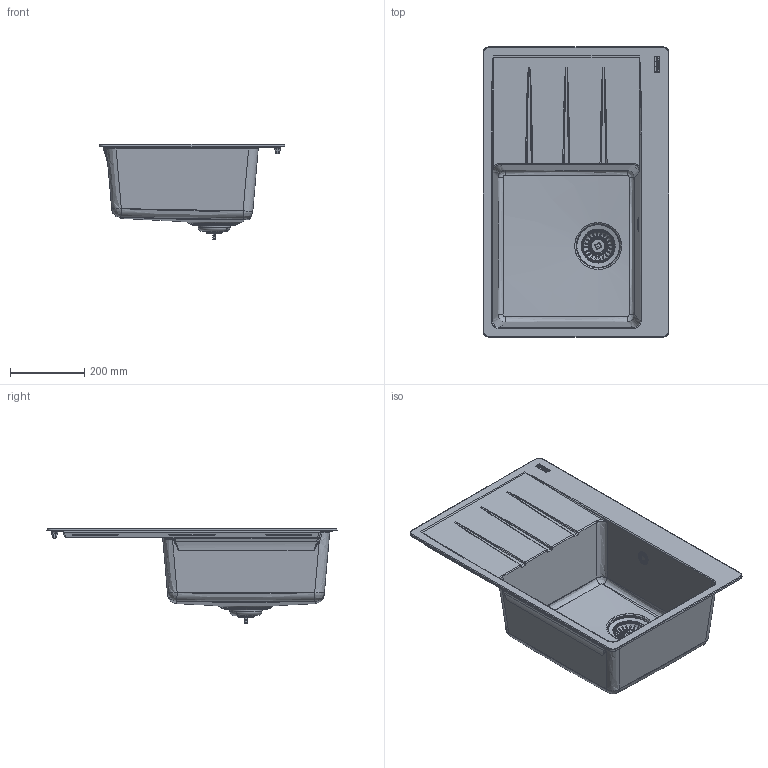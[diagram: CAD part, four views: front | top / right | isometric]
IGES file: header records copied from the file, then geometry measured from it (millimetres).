
Global section: file name: F:\_CONVERSIONE_CAD_2024_2025\_2024\03_3D kits new\Sinks\CENTRO\3D001_Sinks_Centro_CNG-611-78-LHD\3D001_Sinks_Centro_CNG-611-78-LHD.igs; native system: Rhinoceros ( Feb 13 2024 ); preprocessor: Trout Lake IGES 012 Feb 13 2024; date: 240314.094310; units: millimetre
Bounding box: 500 x 780 x 256.38 mm (x, y, z)
Surface area: 1419975.2 mm2 (no closed solid volume)
Topology: 0 solids, 0 shells, 1889 faces, 11692 edges, 11605 vertices
Faces by surface type: bspline 1889
